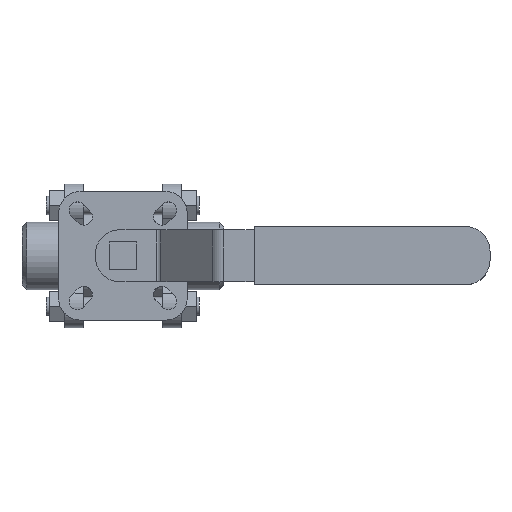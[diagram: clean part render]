
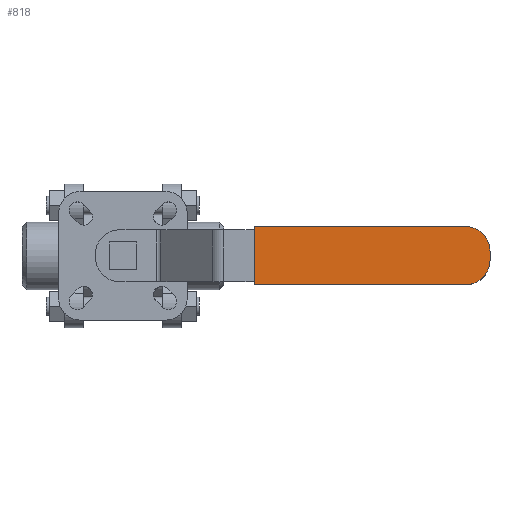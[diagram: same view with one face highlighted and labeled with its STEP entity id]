
A CAD part, top view. The second image highlights one B-rep face of the part: STEP entity #818.
In plain terms, the highlighted planar face has unit normal (0, 0, 1).
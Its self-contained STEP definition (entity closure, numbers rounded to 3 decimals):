
#818 = ADVANCED_FACE( '', ( #1737 ), #1738, .F. );
#1737 = FACE_OUTER_BOUND( '', #3911, .T. );
#1738 = PLANE( '', #3912 );
#3911 = EDGE_LOOP( '', ( #6815, #6816, #6817, #6818, #6819, #6820 ) );
#3912 = AXIS2_PLACEMENT_3D( '', #6821, #6822, #6823 );
#6815 = ORIENTED_EDGE( '', *, *, #7756, .T. );
#6816 = ORIENTED_EDGE( '', *, *, #8128, .T. );
#6817 = ORIENTED_EDGE( '', *, *, #8129, .T. );
#6818 = ORIENTED_EDGE( '', *, *, #8113, .F. );
#6819 = ORIENTED_EDGE( '', *, *, #7243, .F. );
#6820 = ORIENTED_EDGE( '', *, *, #7962, .T. );
#6821 = CARTESIAN_POINT( '', ( 120., -9.5, 23. ) );
#6822 = DIRECTION( '', ( 0., 0., -1. ) );
#6823 = DIRECTION( '', ( -1., 0., 0. ) );
#7243 = EDGE_CURVE( '', #8256, #8258, #8259, .T. );
#7756 = EDGE_CURVE( '', #9098, #9096, #9099, .T. );
#7962 = EDGE_CURVE( '', #8256, #9098, #9391, .F. );
#8113 = EDGE_CURVE( '', #8258, #9570, #9572, .T. );
#8128 = EDGE_CURVE( '', #9096, #9590, #9591, .F. );
#8129 = EDGE_CURVE( '', #9590, #9570, #9592, .T. );
#8256 = VERTEX_POINT( '', #9966 );
#8258 = VERTEX_POINT( '', #9969 );
#8259 = LINE( '', #9970, #9971 );
#9096 = VERTEX_POINT( '', #11736 );
#9098 = VERTEX_POINT( '', #11739 );
#9099 = LINE( '', #11740, #11741 );
#9391 = CIRCLE( '', #13031, 8. );
#9570 = VERTEX_POINT( '', #13439 );
#9572 = LINE( '', #13442, #13443 );
#9590 = VERTEX_POINT( '', #13537 );
#9591 = CIRCLE( '', #13538, 8. );
#9592 = LINE( '', #13539, #13540 );
#9966 = CARTESIAN_POINT( '', ( 112., -9.5, 23. ) );
#9969 = CARTESIAN_POINT( '', ( 42.899, -9.5, 23. ) );
#9970 = CARTESIAN_POINT( '', ( 120., -9.5, 23. ) );
#9971 = VECTOR( '', #13901, 1000. );
#11736 = CARTESIAN_POINT( '', ( 120., 1.5, 23. ) );
#11739 = CARTESIAN_POINT( '', ( 120., -1.5, 23. ) );
#11740 = CARTESIAN_POINT( '', ( 120., -9.5, 23. ) );
#11741 = VECTOR( '', #14326, 1000. );
#13031 = AXIS2_PLACEMENT_3D( '', #14436, #14437, #14438 );
#13439 = CARTESIAN_POINT( '', ( 42.899, 9.5, 23. ) );
#13442 = CARTESIAN_POINT( '', ( 42.899, -9.5, 23. ) );
#13443 = VECTOR( '', #14505, 1000. );
#13537 = CARTESIAN_POINT( '', ( 112., 9.5, 23. ) );
#13538 = AXIS2_PLACEMENT_3D( '', #14507, #14508, #14509 );
#13539 = CARTESIAN_POINT( '', ( 120., 9.5, 23. ) );
#13540 = VECTOR( '', #14510, 1000. );
#13901 = DIRECTION( '', ( -1., 0., 0. ) );
#14326 = DIRECTION( '', ( 0., 1., 0. ) );
#14436 = CARTESIAN_POINT( '', ( 112., -1.5, 23. ) );
#14437 = DIRECTION( '', ( 0., 0., -1. ) );
#14438 = DIRECTION( '', ( -1., 0., 0. ) );
#14505 = DIRECTION( '', ( 0., 1., 0. ) );
#14507 = CARTESIAN_POINT( '', ( 112., 1.5, 23. ) );
#14508 = DIRECTION( '', ( 0., 0., -1. ) );
#14509 = DIRECTION( '', ( -1., 0., 0. ) );
#14510 = DIRECTION( '', ( -1., 0., 0. ) );
